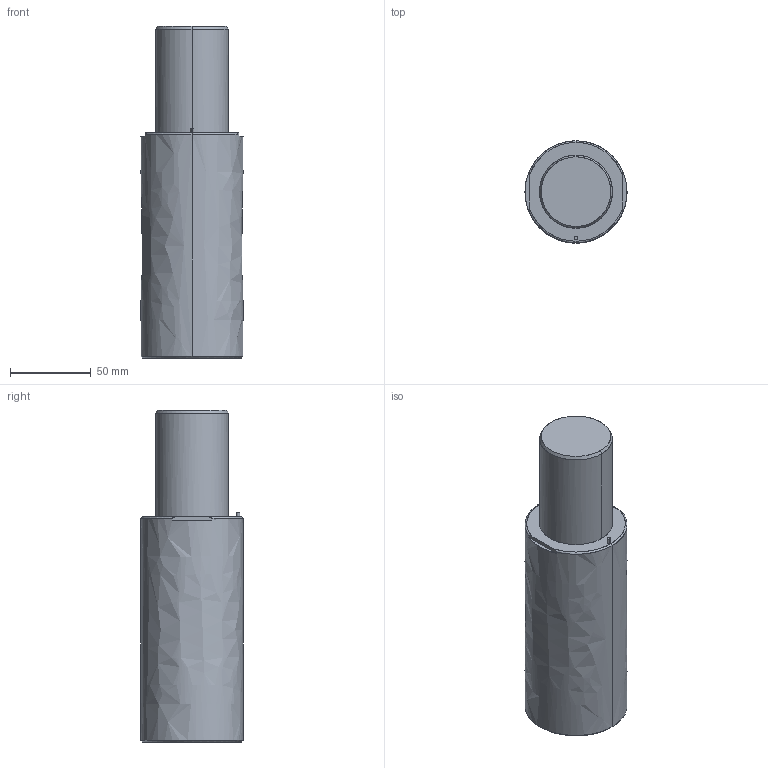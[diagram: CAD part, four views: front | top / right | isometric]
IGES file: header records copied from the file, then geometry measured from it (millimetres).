
Global section: file name: E:\UnigraphicsGraphicData\MISUMI_PRESS-PARTS\IGES\3d_gsx63-63_03966_r00.igs; native system: NX V5.0; preprocessor: UGS NX IGES V5.0; author: MISUMI; date: 20110105.160831; units: millimetre
Bounding box: 63 x 63 x 205 mm (x, y, z)
Surface area: 44487.5 mm2 (no closed solid volume)
Topology: 0 solids, 0 shells, 59 faces, 428 edges, 420 vertices
Faces by surface type: bspline 59
